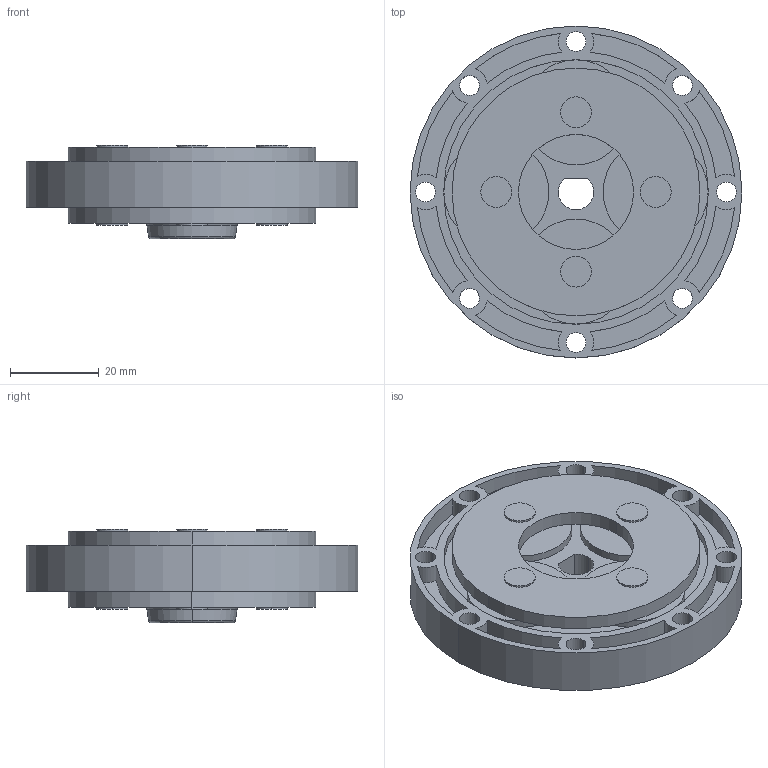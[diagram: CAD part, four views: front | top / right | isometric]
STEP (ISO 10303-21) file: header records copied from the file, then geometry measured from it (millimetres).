
FILE_DESCRIPTION (( 'STEP AP203' ), '1' );
FILE_NAME ('LGU75-5PAD.step', '2021-07-23T02:26:02', ( '' ), ( '' ), 'SwSTEP 2.0', 'SolidWorks 2021', '' );
FILE_SCHEMA (( 'CONFIG_CONTROL_DESIGN' ));
Length unit declared in the file: millimetre
Products named in the file (1): LGU75-5PAD
Bounding box: 75 x 75 x 21.1 mm (x, y, z)
Volume: 49405.3 mm3; surface area: 27592.6 mm2
Topology: 1 solids, 1 shells, 349 faces, 920 edges, 612 vertices
Faces by surface type: cylinder 301, plane 42, torus 4, cone 2
Entity records: 11301 total; most frequent: DIRECTION 2234, CARTESIAN_POINT 1882, ORIENTED_EDGE 1840, AXIS2_PLACEMENT_3D 964, EDGE_CURVE 920, CIRCLE 614, VERTEX_POINT 612, EDGE_LOOP 422
